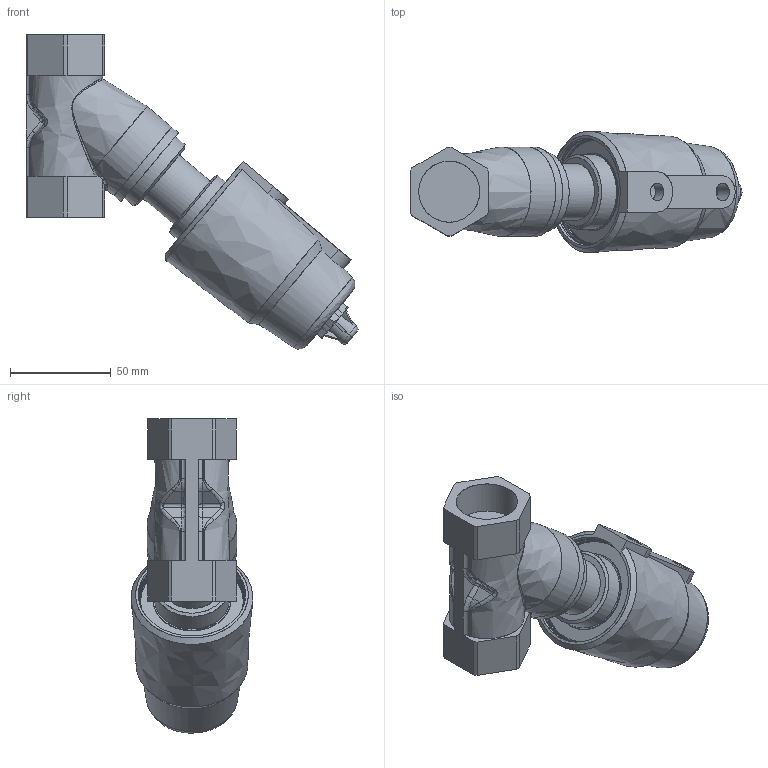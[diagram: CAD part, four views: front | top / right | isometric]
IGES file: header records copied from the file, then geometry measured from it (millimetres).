
Bounding box: 164.82 x 60.4 x 156.09 mm (x, y, z)
Surface area: 68306.5 mm2 (no closed solid volume)
Topology: 0 solids, 0 shells, 219 faces, 1784 edges, 1722 vertices
Faces by surface type: bspline 219
